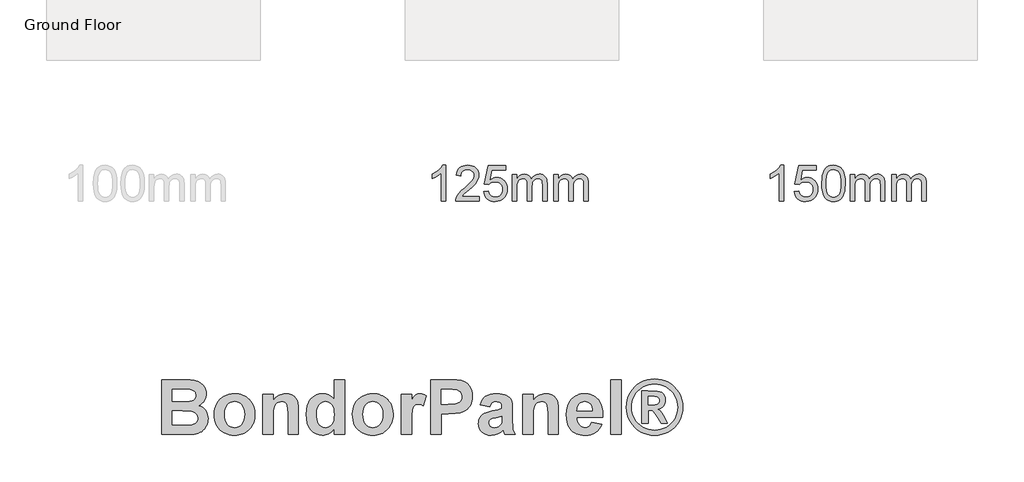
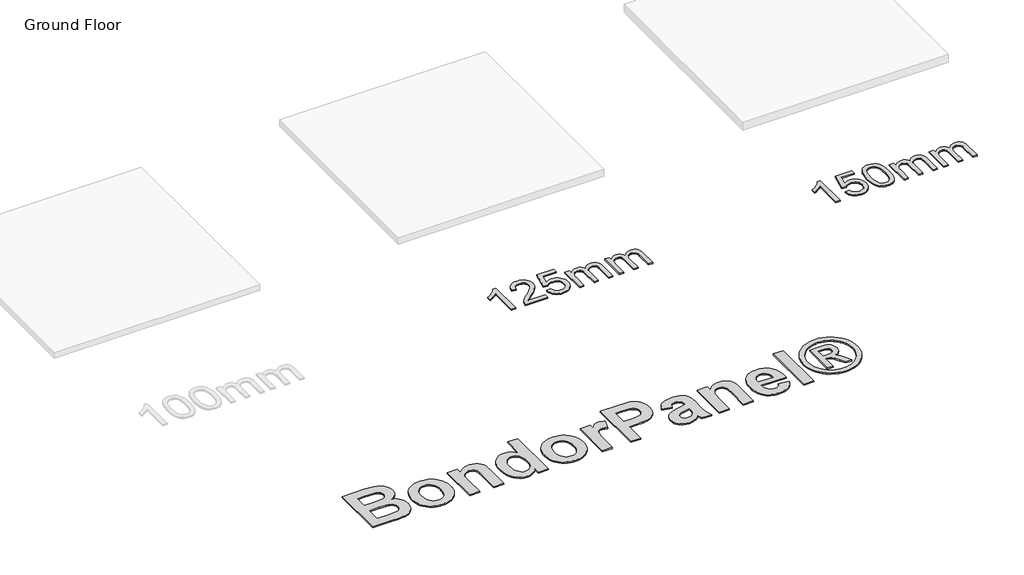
# One storey, part 2 of 3: 3 proxies.
"""IFC4 building model written with IfcOpenShell, lengths in millimetres."""

import ifcopenshell
import ifcopenshell.guid

model = None  # the IFC model being written
_history = None  # IfcOwnerHistory: only IFC2X3 demands one
_inside = {}  # id of a spatial element -> (the spatial element, [elements in it])
_under = {}  # id of a project, library or spatial element -> (it, [spatial elements below it])
_declared = {}  # id of a project -> (the project, [libraries it declares])
_typed = {}  # id of a type object -> (the type object, [elements of that type])
_made_of = {}  # id of a material, layer set ... -> (it, [elements and type objects made of it])


def new_model(schema):
    """Start an empty IFC model of exactly this schema.

    Asked for "IFC4X3", IfcOpenShell would pick the latest addendum, in which some entities
    have other attributes; the version numbers below select the first issue.
    IFC2X3 requires an IfcOwnerHistory on every rooted entity: one is made here for all.
    """
    global model, _history
    if schema == "IFC4X3":
        model = ifcopenshell.file(schema_version=(4, 3, 0, 0))
    else:
        model = ifcopenshell.file(schema=schema)
    _inside.clear()
    _under.clear()
    _declared.clear()
    _typed.clear()
    _made_of.clear()
    _history = None
    if model.schema == "IFC2X3":
        org = make("IfcOrganization", Name="unknown")
        user = make(
            "IfcPersonAndOrganization",
            ThePerson=make("IfcPerson", FamilyName="unknown"),
            TheOrganization=org,
        )
        app = make(
            "IfcApplication",
            ApplicationDeveloper=org,
            Version="unknown",
            ApplicationFullName="unknown",
            ApplicationIdentifier="unknown",
        )
        _history = make(
            "IfcOwnerHistory",
            OwningUser=user,
            OwningApplication=app,
            ChangeAction="ADDED",
            CreationDate=0,
        )
    return model


def make(cls, **values):
    """One entity of the class cls with the attributes given. An attribute that is None is left unset."""
    return model.create_entity(
        cls, **{name: value for name, value in values.items() if value is not None}
    )


def rooted(cls, **values):
    """An entity with a GlobalId (a new one), such as an element, a storey or a relation."""
    return make(cls, GlobalId=ifcopenshell.guid.new(), OwnerHistory=_history, **values)


def si_unit(unit_type, name, prefix=None):
    """IfcSIUnit, for example si_unit("LENGTHUNIT", "METRE", prefix="MILLI")."""
    return make("IfcSIUnit", UnitType=unit_type, Prefix=prefix, Name=name)


def assignment(units):
    """IfcUnitAssignment: the units of a project."""
    return None if units is None else make("IfcUnitAssignment", Units=units)


def point(xyz):
    """IfcCartesianPoint."""
    return None if xyz is None else make("IfcCartesianPoint", Coordinates=xyz)


def direction(xyz):
    """IfcDirection."""
    return None if xyz is None else make("IfcDirection", DirectionRatios=xyz)


def frame(location, z_axis=None, x_axis=None):
    """IfcAxis2Placement3D, a coordinate frame: its origin and axes. An axis left out is left unset."""
    return make(
        "IfcAxis2Placement3D",
        Location=point(location),
        Axis=direction(z_axis),
        RefDirection=direction(x_axis),
    )


def origin():
    """The frame at (0, 0, 0) with its axes left unset."""
    return frame((0.0, 0.0, 0.0))


def origin_with_axes():
    """The frame at (0, 0, 0) with the z axis (0, 0, 1) and the x axis (1, 0, 0) written out."""
    return frame((0.0, 0.0, 0.0), z_axis=(0.0, 0.0, 1.0), x_axis=(1.0, 0.0, 0.0))


def place(relative_to, where):
    """IfcLocalPlacement: puts the frame where relative to a parent placement (None: the world)."""
    return make(
        "IfcLocalPlacement", PlacementRelTo=relative_to, RelativePlacement=where
    )


def context(
    kind, dimensions, precision=None, world=None, true_north=None, identifier=None
):
    """IfcGeometricRepresentationContext, for example the 3D "Model" context."""
    return make(
        "IfcGeometricRepresentationContext",
        ContextIdentifier=identifier,
        ContextType=kind,
        CoordinateSpaceDimension=dimensions,
        Precision=precision,
        WorldCoordinateSystem=world,
        TrueNorth=true_north,
    )


def project(units=None, contexts=None):
    """IfcProject with its units and contexts."""
    return rooted(
        "IfcProject",
        Name="project",
        RepresentationContexts=contexts,
        UnitsInContext=assignment(units),
    )


def spatial(cls, under=None, at=None, **own):
    """A site, building, storey or space (cls), placed at a placement, below another one or the project."""
    s = rooted(cls, ObjectPlacement=at, **own)
    if under is not None:
        _under.setdefault(under.id(), (under, []))[1].append(s)
    return s


def polyline(points):
    """IfcPolyline through the points."""
    return make("IfcPolyline", Points=[point(p) for p in points])


def outline(outer, holes=None, kind="AREA"):
    """IfcArbitraryClosedProfileDef: a profile drawn as a closed curve; with holes, ...WithVoids."""
    if holes is None:
        return make("IfcArbitraryClosedProfileDef", ProfileType=kind, OuterCurve=outer)
    return make(
        "IfcArbitraryProfileDefWithVoids",
        ProfileType=kind,
        OuterCurve=outer,
        InnerCurves=holes,
    )


def extrude(swept, where, along, depth):
    """IfcExtrudedAreaSolid: the profile swept, set in the frame where, extruded along a direction by depth."""
    return make(
        "IfcExtrudedAreaSolid",
        SweptArea=swept,
        Position=where,
        ExtrudedDirection=direction(along),
        Depth=depth,
    )


def shape(context_of_items, identifier, shape_type, items):
    """IfcShapeRepresentation: the items that make up one representation, for example the "Body"."""
    return make(
        "IfcShapeRepresentation",
        ContextOfItems=context_of_items,
        RepresentationIdentifier=identifier,
        RepresentationType=shape_type,
        Items=items,
    )


def made_of(thing, what):
    """Note that an element or type object is made of a material, layer set ...; save() writes the relation."""
    if what is not None:
        _made_of.setdefault(what.id(), (what, []))[1].append(thing)
    return thing


def element(
    cls,
    number,
    at=None,
    inside=None,
    cuts=None,
    type_object=None,
    material=None,
    context=None,
    identifier="Body",
    shape_type=None,
    held_by="IfcProductDefinitionShape",
    body=None,
    shapes=None,
    **own,
):
    """One element of the class cls, such as IfcWall. Its Tag is "e" and its number.

    at: its placement. inside: the storey or other place that contains it. cuts: it is an
    opening in that element (IfcRelVoidsElement). A single representation is given by context,
    identifier, shape_type and body (its items); several are given by shapes. held_by: the class
    of the entity that holds the representations. save() writes the other relations.
    """
    e = rooted(cls, Tag="e%d" % number, ObjectPlacement=at, **own)
    if body is not None:
        shapes = [shape(context, identifier, shape_type, body)]
    if shapes is not None:
        e.Representation = make(held_by, Representations=shapes)
    if inside is not None:
        _inside.setdefault(inside.id(), (inside, []))[1].append(e)
    if cuts is not None:
        rooted(
            "IfcRelVoidsElement", RelatingBuildingElement=cuts, RelatedOpeningElement=e
        )
    if type_object is not None:
        _typed.setdefault(type_object.id(), (type_object, []))[1].append(e)
    return made_of(e, material)


def aggregate(whole, parts):
    """IfcRelAggregates: a whole, such as a stair, and the parts it consists of."""
    return rooted("IfcRelAggregates", RelatingObject=whole, RelatedObjects=parts)


def save(model, path):
    """Write the relations noted so far, then the file.

    IfcRelAggregates (storeys below a building ...), IfcRelContainedInSpatialStructure (elements
    in a storey), IfcRelDefinesByType, IfcRelAssociatesMaterial and IfcRelDeclares: one each for
    every whole, place, type object, material and project.
    """
    for whole, parts in _under.values():
        aggregate(whole, parts)
    for where, things in _inside.values():
        rooted(
            "IfcRelContainedInSpatialStructure",
            RelatedElements=things,
            RelatingStructure=where,
        )
    for kind, things in _typed.values():
        rooted("IfcRelDefinesByType", RelatedObjects=things, RelatingType=kind)
    for what, things in _made_of.values():
        rooted("IfcRelAssociatesMaterial", RelatedObjects=things, RelatingMaterial=what)
    for by, libraries in _declared.values():
        rooted("IfcRelDeclares", RelatingContext=by, RelatedDefinitions=libraries)
    model.write(path)


model = new_model("IFC4")

# Units and contexts
model_context = context("Model", 3, world=origin())
ifc_project = project(units=[si_unit("LENGTHUNIT", "METRE", prefix="MILLI")], contexts=[model_context])

# Site, building, storey
site = spatial("IfcSite", under=ifc_project)
building = spatial("IfcBuilding", under=site)
storey = spatial("IfcBuildingStorey", under=building, Name="Ground Floor", Elevation=0.0)

# Proxies
placement = place(None, origin())
element("IfcBuildingElementProxy", 1, Name="600mm Arial", ObjectType="600mm Arial", at=placement, inside=storey, context=model_context, shape_type="SweptSolid", body=[
    extrude(outline(polyline([(9514.4488498, -2485.58737), (9439.1066172, -2485.58737), (9439.1066172, -2015.8756386), (9407.6527066, -2041.3146785), (9367.7375101, -2066.7169303), (9325.8357509, -2088.9186087), (9288.422152, -2104.7559286), (9288.422152, -2033.5339743), (9347.5959709, -2001.3442998), (9398.8603269, -1963.0477841), (9439.2721641, -1922.3232472), (9465.8884265, -1882.8495091), (9514.4488498, -1882.8495091), (9514.4488498, -2485.58737)])), origin_with_axes(), (0.0, 0.0, 1.0), 20.0),
    extrude(outline(polyline([(10079.5155944, -2410.2451374), (10079.5155944, -2485.58737), (9683.9688732, -2485.58737), (9685.6243422, -2459.0630782), (9692.0622771, -2433.6424323), (9710.6403178, -2393.0466541), (9737.8267973, -2353.6648865), (9777.1533826, -2312.443709), (9832.1517409, -2266.3297009), (9913.4536618, -2194.1144652), (9962.2348144, -2140.8083641), (9976.4626505, -2119.02975), (9986.6253906, -2097.5454415), (9992.7230347, -2076.3554386), (9994.7555827, -2055.4597412), (9992.8379978, -2035.8010471), (9987.0852431, -2017.7334426), (9977.4973186, -2001.2569278), (9964.0742243, -1986.3715026), (9947.5609213, -1974.0428572), (9928.7023705, -1965.2366819), (9907.498572, -1959.9529768), (9883.9495258, -1958.1917417), (9859.1404837, -1959.9115901), (9836.9526009, -1965.071135), (9817.3858773, -1973.6703767), (9800.4403129, -1985.709315), (9786.73211, -2000.7832797), (9776.8774711, -2018.4876007), (9770.876396, -2038.822278), (9768.7288849, -2061.7873116), (9693.3866523, -2052.3695325), (9699.8659739, -2013.4752085), (9711.6519933, -1979.4921092), (9728.7447105, -1950.4202346), (9751.1441255, -1926.2595845), (9778.3352035, -1907.2676765), (9809.8029096, -1893.702028), (9845.547244, -1885.5626388), (9885.5682066, -1882.8495091), (9925.9478541, -1885.8661415), (9961.8853265, -1894.9160386), (9993.3806238, -1909.9992004), (10020.433746, -1931.1156269), (10042.1617763, -1956.7018196), (10057.681798, -1985.1942802), (10066.993811, -2016.5930085), (10070.0978153, -2050.8980045), (10066.7500892, -2086.9320459), (10056.7069107, -2122.340688), (10038.883028, -2158.3563353), (10012.1931893, -2196.2113926), (9969.6476366, -2241.4056957), (9904.2566119, -2299.4390805), (9817.5836138, -2371.9118335), (9783.5913175, -2410.2451374), (10079.5155944, -2410.2451374)])), origin_with_axes(), (0.0, 0.0, 1.0), 20.0),
    extrude(outline(polyline([(10154.857827, -2325.4851257), (10230.2000596, -2316.0673466), (10235.8286542, -2340.2877775), (10244.0324227, -2361.2984379), (10254.8113651, -2379.099328), (10268.1654815, -2393.6904476), (10284.0671808, -2405.0534027), (10302.4888717, -2413.1697993), (10323.4305543, -2418.0396372), (10346.8922285, -2419.6629165), (10375.5870241, -2417.4050407), (10400.8973054, -2410.6314135), (10422.8230723, -2399.3420348), (10441.3643249, -2383.5369045), (10456.1071958, -2363.9977721), (10466.6378179, -2341.5063866), (10472.9561912, -2316.0627481), (10475.0623156, -2287.6668566), (10473.0895484, -2260.8298651), (10467.1712468, -2236.9727177), (10457.3074108, -2216.0954144), (10443.4980404, -2198.1979554), (10425.6971504, -2183.8413605), (10403.8587555, -2173.5866499), (10377.9828556, -2167.4338235), (10348.0694509, -2165.3828814), (10311.5203747, -2168.6570312), (10281.9242682, -2178.4794804), (10258.28785, -2193.525854), (10239.6178387, -2212.4717768), (10164.2756061, -2203.0539977), (10230.2000596, -1892.2672882), (10522.151211, -1892.2672882), (10522.151211, -1967.6095208), (10291.121318, -1967.6095208), (10258.8948553, -2133.597877), (10285.4835265, -2114.5415897), (10312.7159912, -2100.9299559), (10340.5922493, -2092.7629756), (10369.112301, -2090.0406488), (10405.8039315, -2093.4159661), (10439.5065208, -2103.541918), (10470.2200689, -2120.4185045), (10497.9445757, -2144.0457257), (10520.8958137, -2172.9796446), (10537.2895551, -2205.7763245), (10547.1258, -2242.4357653), (10550.4045482, -2282.9579671), (10547.4522952, -2321.9902468), (10538.5955362, -2358.3001997), (10523.8342711, -2391.8878258), (10503.1685001, -2422.7531252), (10471.8617423, -2454.3633857), (10435.3310601, -2476.9421431), (10393.5764537, -2490.4893976), (10346.5979229, -2495.0051491), (10307.7173945, -2492.1034798), (10272.5984596, -2483.3984721), (10241.241118, -2468.890126), (10213.6453699, -2448.5784413), (10190.6849348, -2423.4750936), (10173.2335327, -2394.5917585), (10161.2911634, -2361.9284359), (10154.857827, -2325.4851257)])), origin_with_axes(), (0.0, 0.0, 1.0), 20.0),
    extrude(outline(polyline([(10635.1645599, -2485.58737), (10635.1645599, -2042.9517534), (10710.5067925, -2042.9517534), (10710.5067925, -2115.7923885), (10733.1683234, -2082.333521), (10762.3045775, -2056.1219288), (10796.9222732, -2039.180963), (10836.0281293, -2033.5339743), (10877.9298885, -2039.2913276), (10895.7629683, -2046.4880191), (10911.5175147, -2056.5633872), (10936.6070668, -2084.2097192), (10953.0146038, -2121.0898892), (10980.4769947, -2082.7841764), (11011.8021466, -2055.422953), (11046.9900594, -2039.006219), (11086.0407332, -2033.5339743), (11116.2024583, -2035.8102442), (11142.6761664, -2042.6390537), (11165.4618575, -2054.0204029), (11184.5595315, -2069.9542919), (11199.6564889, -2090.6246615), (11210.4400299, -2116.2154528), (11216.9101545, -2146.7266657), (11219.0668627, -2182.1583004), (11219.0668627, -2485.58737), (11143.7246301, -2485.58737), (11143.7246301, -2214.531916), (11141.9771906, -2176.9527702), (11136.7348722, -2151.6240948), (11126.9124229, -2134.2784587), (11111.4245909, -2120.6484308), (11091.5037808, -2111.8192629), (11068.3823974, -2108.8762069), (11047.0314462, -2110.7616022), (11027.5658901, -2116.4177879), (11009.9857292, -2125.844764), (10994.2909636, -2139.0425306), (10981.3829041, -2156.3973637), (10972.1628616, -2178.2955394), (10966.6308361, -2204.7370578), (10964.7868276, -2235.7219189), (10964.7868276, -2485.58737), (10889.444595, -2485.58737), (10889.444595, -2206.1442065), (10885.0851934, -2163.5434714), (10879.6359413, -2146.8232348), (10872.0069884, -2133.1564186), (10861.8948321, -2122.533826), (10848.9959696, -2114.9462599), (10833.3104011, -2110.3937202), (10814.8381264, -2108.8762069), (10785.812237, -2112.9229089), (10759.0672159, -2125.0630147), (10736.9942962, -2145.0022189), (10721.9847108, -2172.4462157), (10713.3762721, -2210.5220022), (10710.5067925, -2262.3565753), (10710.5067925, -2485.58737), (10635.1645599, -2485.58737)])), origin_with_axes(), (0.0, 0.0, 1.0), 20.0),
    extrude(outline(polyline([(11332.0802116, -2485.58737), (11332.0802116, -2042.9517534), (11407.4224442, -2042.9517534), (11407.4224442, -2115.7923885), (11430.0839751, -2082.333521), (11459.2202291, -2056.1219288), (11493.8379249, -2039.180963), (11532.943781, -2033.5339743), (11574.8455402, -2039.2913276), (11592.6786199, -2046.4880191), (11608.4331664, -2056.5633872), (11633.5227184, -2084.2097192), (11649.9302554, -2121.0898892), (11677.3926464, -2082.7841764), (11708.7177983, -2055.422953), (11743.9057111, -2039.006219), (11782.9563849, -2033.5339743), (11813.11811, -2035.8102442), (11839.591818, -2042.6390537), (11862.3775091, -2054.0204029), (11881.4751832, -2069.9542919), (11896.5721406, -2090.6246615), (11907.3556815, -2116.2154528), (11913.8258061, -2146.7266657), (11915.9825143, -2182.1583004), (11915.9825143, -2485.58737), (11840.6402817, -2485.58737), (11840.6402817, -2214.531916), (11838.8928422, -2176.9527702), (11833.6505238, -2151.6240948), (11823.8280745, -2134.2784587), (11808.3402425, -2120.6484308), (11788.4194325, -2111.8192629), (11765.2980491, -2108.8762069), (11743.9470978, -2110.7616022), (11724.4815417, -2116.4177879), (11706.9013809, -2125.844764), (11691.2066153, -2139.0425306), (11678.2985558, -2156.3973637), (11669.0785133, -2178.2955394), (11663.5464878, -2204.7370578), (11661.7024793, -2235.7219189), (11661.7024793, -2485.58737), (11586.3602467, -2485.58737), (11586.3602467, -2206.1442065), (11582.000845, -2163.5434714), (11576.551593, -2146.8232348), (11568.9226401, -2133.1564186), (11558.8104837, -2122.533826), (11545.9116213, -2114.9462599), (11530.2260527, -2110.3937202), (11511.753778, -2108.8762069), (11482.7278886, -2112.9229089), (11455.9828676, -2125.0630147), (11433.9099479, -2145.0022189), (11418.9003625, -2172.4462157), (11410.2919238, -2210.5220022), (11407.4224442, -2262.3565753), (11407.4224442, -2485.58737), (11332.0802116, -2485.58737)])), origin_with_axes(), (0.0, 0.0, 1.0), 20.0),
])
element("IfcBuildingElementProxy", 2, Name="600mm Arial", ObjectType="600mm Arial", at=placement, inside=storey, context=model_context, shape_type="SweptSolid", body=[
    extrude(outline(polyline([(15201.7887855, -2485.58737), (15126.4465529, -2485.58737), (15126.4465529, -2015.8756386), (15094.9926423, -2041.3146785), (15055.0774458, -2066.7169303), (15013.1756866, -2088.9186087), (14975.7620877, -2104.7559286), (14975.7620877, -2033.5339743), (15034.9359066, -2001.3442998), (15086.2002626, -1963.0477841), (15126.6120998, -1922.3232472), (15153.2283621, -1882.8495091), (15201.7887855, -1882.8495091), (15201.7887855, -2485.58737)])), origin_with_axes(), (0.0, 0.0, 1.0), 20.0),
    extrude(outline(polyline([(15380.726588, -2325.4851257), (15456.0688206, -2316.0673466), (15461.6974151, -2340.2877775), (15469.9011836, -2361.2984379), (15480.680126, -2379.099328), (15494.0342425, -2393.6904476), (15509.9359417, -2405.0534027), (15528.3576326, -2413.1697993), (15549.2993152, -2418.0396372), (15572.7609894, -2419.6629165), (15601.4557851, -2417.4050407), (15626.7660663, -2410.6314135), (15648.6918332, -2399.3420348), (15667.2330858, -2383.5369045), (15681.9759568, -2363.9977721), (15692.5065789, -2341.5063866), (15698.8249521, -2316.0627481), (15700.9310766, -2287.6668566), (15698.9583094, -2260.8298651), (15693.0400078, -2236.9727177), (15683.1761718, -2216.0954144), (15669.3668014, -2198.1979554), (15651.5659113, -2183.8413605), (15629.7275164, -2173.5866499), (15603.8516166, -2167.4338235), (15573.9382118, -2165.3828814), (15537.3891356, -2168.6570312), (15507.7930291, -2178.4794804), (15484.1566109, -2193.525854), (15465.4865996, -2212.4717768), (15390.144367, -2203.0539977), (15456.0688206, -1892.2672882), (15748.0199719, -1892.2672882), (15748.0199719, -1967.6095208), (15516.990079, -1967.6095208), (15484.7636162, -2133.597877), (15511.3522874, -2114.5415897), (15538.5847521, -2100.9299559), (15566.4610103, -2092.7629756), (15594.981062, -2090.0406488), (15631.6726924, -2093.4159661), (15665.3752817, -2103.541918), (15696.0888298, -2120.4185045), (15723.8133367, -2144.0457257), (15746.7645746, -2172.9796446), (15763.158316, -2205.7763245), (15772.9945609, -2242.4357653), (15776.2733092, -2282.9579671), (15773.3210562, -2321.9902468), (15764.4642971, -2358.3001997), (15749.7030321, -2391.8878258), (15729.037261, -2422.7531252), (15697.7305032, -2454.3633857), (15661.1998211, -2476.9421431), (15619.4452146, -2490.4893976), (15572.4666838, -2495.0051491), (15533.5861555, -2492.1034798), (15498.4672205, -2483.3984721), (15467.109879, -2468.890126), (15439.5141308, -2448.5784413), (15416.5536958, -2423.4750936), (15399.1022936, -2394.5917585), (15387.1599243, -2361.9284359), (15380.726588, -2325.4851257)])), origin_with_axes(), (0.0, 0.0, 1.0), 20.0),
    extrude(outline(polyline([(15842.1977627, -2189.0744819), (15847.7343867, -2092.5974287), (15854.6551668, -2051.6843523), (15864.3442588, -2015.6549094), (15876.7602762, -1984.2147944), (15891.8618321, -1957.0697016), (15909.6489265, -1934.2196312), (15930.1215596, -1915.6645831), (15953.348709, -1901.3079882), (15979.3993528, -1891.0532776), (16008.2734909, -1884.9004512), (16039.9711233, -1882.8495091), (16086.3978311, -1887.7055514), (16127.9684966, -1902.2736785), (16162.7333451, -1925.983673), (16188.7426022, -1958.2653181), (16208.3875007, -1998.8427022), (16224.0592737, -2047.4399138), (16234.3231814, -2109.1521184), (16237.7444839, -2189.0744819), (16232.2630422, -2284.9997121), (16225.41124, -2325.7748328), (16215.818717, -2361.7582904), (16203.4992687, -2393.212201), (16188.4666907, -2420.3986805), (16170.7209829, -2443.3177288), (16150.2621455, -2461.9693459), (16127.0074049, -2476.4225098), (16100.8739876, -2486.7461983), (16071.8618938, -2492.9404114), (16039.9711233, -2495.0051491), (15998.4740343, -2491.4182996), (15961.6858347, -2480.6577513), (15929.6065248, -2462.723504), (15902.2361043, -2437.6155578), (15875.9693299, -2392.2281167), (15857.2073481, -2335.675457), (15845.9501591, -2267.9575787), (15842.1977627, -2189.0744819)]), holes=[polyline([(15917.5399953, -2188.9273291), (15919.7472873, -2254.4241198), (15926.3691632, -2307.4405138), (15937.4056231, -2347.9765112), (15952.8566669, -2376.0321118), (15971.5450722, -2395.1205889), (15992.2936167, -2408.7552153), (16015.1023004, -2416.9359912), (16039.9711233, -2419.6629165), (16064.8399462, -2416.9267941), (16087.6486299, -2408.7184271), (16108.3971744, -2395.0378154), (16127.0855798, -2375.884959), (16142.5366236, -2347.7833731), (16153.5730834, -2307.2565728), (16160.1949593, -2254.3045582), (16162.4022513, -2188.9273291), (16160.2685357, -2125.1641823), (16153.867389, -2073.0812888), (16143.1988112, -2032.6786487), (16128.2628022, -2003.9562619), (16109.8870965, -1983.9342843), (16088.8994287, -1969.6328718), (16065.2997987, -1961.0520242), (16039.0882065, -1958.1917417), (16014.3481424, -1960.7117334), (15991.9257347, -1968.2717084), (15971.8209837, -1980.8716667), (15954.0338892, -1998.5116084), (15938.0678107, -2029.781578), (15926.6634688, -2071.9408546), (15919.8208637, -2124.9894383), (15917.5399953, -2188.9273291)])]), origin_with_axes(), (0.0, 0.0, 1.0), 20.0),
    extrude(outline(polyline([(16322.5044956, -2485.58737), (16322.5044956, -2042.9517534), (16397.8467282, -2042.9517534), (16397.8467282, -2115.7923885), (16420.5082591, -2082.333521), (16449.6445131, -2056.1219288), (16484.2622089, -2039.180963), (16523.368065, -2033.5339743), (16565.2698242, -2039.2913276), (16583.1029039, -2046.4880191), (16598.8574504, -2056.5633872), (16623.9470025, -2084.2097192), (16640.3545394, -2121.0898892), (16667.8169304, -2082.7841764), (16699.1420823, -2055.422953), (16734.3299951, -2039.006219), (16773.3806689, -2033.5339743), (16803.542394, -2035.8102442), (16830.0161021, -2042.6390537), (16852.8017931, -2054.0204029), (16871.8994672, -2069.9542919), (16886.9964246, -2090.6246615), (16897.7799656, -2116.2154528), (16904.2500902, -2146.7266657), (16906.4067984, -2182.1583004), (16906.4067984, -2485.58737), (16831.0645657, -2485.58737), (16831.0645657, -2214.531916), (16829.3171263, -2176.9527702), (16824.0748078, -2151.6240948), (16814.2523586, -2134.2784587), (16798.7645266, -2120.6484308), (16778.8437165, -2111.8192629), (16755.7223331, -2108.8762069), (16734.3713818, -2110.7616022), (16714.9058258, -2116.4177879), (16697.3256649, -2125.844764), (16681.6308993, -2139.0425306), (16668.7228398, -2156.3973637), (16659.5027973, -2178.2955394), (16653.9707718, -2204.7370578), (16652.1267633, -2235.7219189), (16652.1267633, -2485.58737), (16576.7845307, -2485.58737), (16576.7845307, -2206.1442065), (16572.425129, -2163.5434714), (16566.975877, -2146.8232348), (16559.3469241, -2133.1564186), (16549.2347678, -2122.533826), (16536.3359053, -2114.9462599), (16520.6503367, -2110.3937202), (16502.1780621, -2108.8762069), (16473.1521726, -2112.9229089), (16446.4071516, -2125.0630147), (16424.3342319, -2145.0022189), (16409.3246465, -2172.4462157), (16400.7162078, -2210.5220022), (16397.8467282, -2262.3565753), (16397.8467282, -2485.58737), (16322.5044956, -2485.58737)])), origin_with_axes(), (0.0, 0.0, 1.0), 20.0),
    extrude(outline(polyline([(17019.4201473, -2485.58737), (17019.4201473, -2042.9517534), (17094.7623799, -2042.9517534), (17094.7623799, -2115.7923885), (17117.4239108, -2082.333521), (17146.5601648, -2056.1219288), (17181.1778606, -2039.180963), (17220.2837166, -2033.5339743), (17262.1854759, -2039.2913276), (17280.0185556, -2046.4880191), (17295.7731021, -2056.5633872), (17320.8626541, -2084.2097192), (17337.2701911, -2121.0898892), (17364.732582, -2082.7841764), (17396.0577339, -2055.422953), (17431.2456468, -2039.006219), (17470.2963206, -2033.5339743), (17500.4580456, -2035.8102442), (17526.9317537, -2042.6390537), (17549.7174448, -2054.0204029), (17568.8151189, -2069.9542919), (17583.9120762, -2090.6246615), (17594.6956172, -2116.2154528), (17601.1657418, -2146.7266657), (17603.32245, -2182.1583004), (17603.32245, -2485.58737), (17527.9802174, -2485.58737), (17527.9802174, -2214.531916), (17526.2327779, -2176.9527702), (17520.9904595, -2151.6240948), (17511.1680102, -2134.2784587), (17495.6801782, -2120.6484308), (17475.7593682, -2111.8192629), (17452.6379848, -2108.8762069), (17431.2870335, -2110.7616022), (17411.8214774, -2116.4177879), (17394.2413166, -2125.844764), (17378.546551, -2139.0425306), (17365.6384915, -2156.3973637), (17356.418449, -2178.2955394), (17350.8864235, -2204.7370578), (17349.042415, -2235.7219189), (17349.042415, -2485.58737), (17273.7001823, -2485.58737), (17273.7001823, -2206.1442065), (17269.3407807, -2163.5434714), (17263.8915286, -2146.8232348), (17256.2625758, -2133.1564186), (17246.1504194, -2122.533826), (17233.251557, -2114.9462599), (17217.5659884, -2110.3937202), (17199.0937137, -2108.8762069), (17170.0678243, -2112.9229089), (17143.3228033, -2125.0630147), (17121.2498835, -2145.0022189), (17106.2402981, -2172.4462157), (17097.6318594, -2210.5220022), (17094.7623799, -2262.3565753), (17094.7623799, -2485.58737), (17019.4201473, -2485.58737)])), origin_with_axes(), (0.0, 0.0, 1.0), 20.0),
])
element("IfcBuildingElementProxy", 3, Name="900mm Arial", ObjectType="900mm Arial", at=placement, inside=storey, context=model_context, shape_type="SweptSolid", body=[
    extrude(outline(polyline([(4738.3193538, -5497.7851027), (5116.7543888, -5497.7851027), (5214.7644897, -5500.0717193), (5284.2490494, -5506.9315688), (5336.5554024, -5521.0800086), (5383.0308833, -5545.2323957), (5422.9609244, -5579.1886511), (5455.630958, -5622.7486959), (5468.3359711, -5647.6656704), (5477.4109805, -5674.0546542), (5482.8559861, -5701.9156474), (5484.6709879, -5731.2486501), (5482.5058479, -5763.0612025), (5476.0104278, -5793.5589504), (5465.1847277, -5822.7418938), (5450.0287476, -5850.6100327), (5431.1570155, -5876.1200984), (5409.1840599, -5898.2288219), (5384.1098805, -5916.9362034), (5355.9344775, -5932.2422427), (5391.8057743, -5946.6193441), (5423.2753342, -5965.2838515), (5450.3431573, -5988.2357649), (5473.0092436, -6015.4750843), (5490.9163093, -6046.1586198), (5503.7070705, -6079.4431816), (5511.3815272, -6115.3287697), (5513.9396795, -6153.8153841), (5512.1032406, -6184.9205146), (5506.5939239, -6215.582613), (5497.4117294, -6245.8016796), (5484.5566571, -6275.5777142), (5468.5217587, -6303.645932), (5449.8000859, -6328.7415484), (5428.3916387, -6350.8645633), (5404.296417, -6370.0149767), (5377.3786531, -6385.985564), (5347.5025791, -6398.5691006), (5314.6681949, -6407.7655864), (5278.8755006, -6413.5750215), (5199.1869146, -6417.6337658), (5053.4151111, -6419.7488861), (4738.3193538, -6419.7488861), (4738.3193538, -5497.7851027)]), holes=[polyline([(4913.931503, -6024.6215504), (4913.931503, -6258.7710827), (5099.6047649, -6258.7710827), (5188.3254861, -6257.3991128), (5237.2590798, -6253.283203), (5277.9036885, -6241.0212219), (5295.0961865, -6231.0101289), (5310.202147, -6218.412301), (5322.5070022, -6203.342069), (5331.2961844, -6185.9137636), (5336.5696938, -6166.127385), (5338.3275302, -6143.9829331), (5332.896816, -6107.6257303), (5316.6046732, -6077.2137305), (5290.0799215, -6053.490084), (5253.9513804, -6037.1979413), (5227.4837941, -6031.6957703), (5189.0114711, -6027.7656481), (5076.0526147, -6024.6215504), (4913.931503, -6024.6215504)]), polyline([(4913.931503, -5658.7629062), (4913.931503, -5863.6437469), (5047.9272314, -5863.6437469), (5196.5573056, -5860.6711455), (5243.3471963, -5849.9812132), (5262.5619208, -5840.7347076), (5278.9898314, -5828.8871757), (5292.1450221, -5814.6958619), (5301.5415869, -5798.4180105), (5307.1795258, -5780.0536216), (5309.0588387, -5759.602695), (5307.4367701, -5740.0878521), (5302.5705643, -5722.4737592), (5294.4602213, -5706.7604162), (5283.1057411, -5692.9478233), (5268.5642892, -5681.3503901), (5250.8930308, -5672.2825264), (5230.0919661, -5665.7442323), (5206.161095, -5661.7355077), (5031.4635924, -5658.7629062), (4913.931503, -5658.7629062)])]), origin_with_axes(), (0.0, 0.0, 1.0), 20.0),
    extrude(outline(polyline([(5616.3800998, -6073.5551441), (5619.0883113, -6029.6592524), (5627.2129456, -5986.4636371), (5640.7540029, -5943.9682981), (5659.711483, -5902.1732354), (5683.6280627, -5863.179278), (5712.0464188, -5829.0872547), (5744.9665511, -5799.8971656), (5782.3884596, -5775.6090107), (5823.218856, -5756.5014713), (5866.3644516, -5742.8532289), (5911.8252464, -5734.6642835), (5959.6012404, -5731.934635), (5996.5890492, -5733.481674), (6031.8654683, -5738.122791), (6065.430498, -5745.857986), (6097.284138, -5756.6872589), (6127.4263885, -5770.6106099), (6155.8572495, -5787.6280388), (6182.5767209, -5807.7395457), (6207.5848027, -5830.9451306), (6230.2276656, -5856.5159345), (6249.8514801, -5883.7230983), (6266.4562462, -5912.5666221), (6280.0419639, -5943.0465058), (6290.6086332, -5975.1627495), (6298.1562542, -6008.9153531), (6304.1943509, -6081.3296402), (6302.668749, -6118.6425773), (6298.0919431, -6154.3227272), (6290.4639333, -6188.37009), (6279.7847195, -6220.7846656), (6266.0543019, -6251.5664542), (6249.2726803, -6280.7154557), (6229.4398547, -6308.23167), (6206.5558253, -6334.1150972), (6181.3601694, -6357.6154413), (6154.5924647, -6377.9824061), (6126.2527111, -6395.2159918), (6096.3409087, -6409.3161982), (6064.8570574, -6420.2830255), (6031.8011572, -6428.1164735), (5997.1732082, -6432.8165423), (5960.9732103, -6434.3832319), (5915.6624747, -6431.7750599), (5871.4235906, -6423.950544), (5828.256558, -6410.9096841), (5786.1613769, -6392.6524803), (5747.088817, -6369.3504288), (5712.9896481, -6341.1750257), (5683.8638701, -6308.1262713), (5659.711483, -6270.2041653), (5640.7540029, -6227.6445152), (5627.2129456, -6180.6831283), (5619.0883113, -6129.3200046), (5616.3800998, -6073.5551441)]), holes=[polyline([(5791.9922491, -6083.1589335), (5795.0291616, -6133.2143984), (5804.1398994, -6177.0531246), (5819.3244622, -6214.6751121), (5840.5828502, -6246.080361), (5866.3001405, -6270.8401305), (5894.86141, -6288.5256802), (5926.2666589, -6299.13701), (5960.515887, -6302.67412), (5994.7508238, -6299.13701), (6026.1131986, -6288.5256802), (6054.6030114, -6270.8401305), (6080.2202622, -6246.080361), (6101.3786107, -6214.589364), (6116.4917168, -6176.7101321), (6125.5595805, -6132.4426653), (6128.5822017, -6081.7869636), (6125.5595805, -6032.3317355), (6116.4917168, -5988.9217499), (6101.3786107, -5951.5570067), (6080.2202622, -5920.237506), (6054.6030114, -5895.4777364), (6026.1131986, -5877.7921867), (5994.7508238, -5867.1808569), (5960.515887, -5863.6437469), (5926.2666589, -5867.1808569), (5894.86141, -5877.7921867), (5866.3001405, -5895.4777364), (5840.5828502, -5920.237506), (5819.3244622, -5951.6427548), (5804.1398994, -5989.2647424), (5795.0291616, -6033.1034686), (5791.9922491, -6083.1589335)])]), origin_with_axes(), (0.0, 0.0, 1.0), 20.0),
    extrude(outline(polyline([(7035.9116393, -6419.7488861), (6860.2994901, -6419.7488861), (6860.2994901, -6073.7838057), (6857.5555503, -5983.2337913), (6849.3237308, -5931.5562578), (6834.8608813, -5902.9163858), (6813.4238513, -5881.4793558), (6786.0416184, -5868.1026492), (6753.74316, -5863.6437469), (6731.9131179, -5865.2372328), (6711.2406753, -5870.0176905), (6691.7258324, -5877.98512), (6673.3685891, -5889.1395212), (6656.9906982, -5902.9306771), (6643.4139126, -5918.8083706), (6632.6382322, -5936.7726017), (6624.6636571, -5956.8233704), (6614.8026233, -6016.8756369), (6611.5156121, -6112.6562867), (6611.5156121, -6419.7488861), (6435.9034629, -6419.7488861), (6435.9034629, -5746.5689808), (6611.5156121, -5746.5689808), (6611.5156121, -5843.5215215), (6633.0562543, -5817.368345), (6655.9474294, -5794.7022587), (6680.1891375, -5775.5232626), (6705.7813784, -5759.8313567), (6732.7241522, -5747.6265409), (6761.0174588, -5738.9088154), (6790.6612984, -5733.6781801), (6821.6556708, -5731.934635), (6875.0481667, -5737.2510185), (6923.6387679, -5753.2001687), (6964.2262112, -5777.3811385), (6993.6092336, -5807.3929804), (7013.7600417, -5842.5211268), (7026.6508424, -5882.05101), (7033.5964401, -5932.8424796), (7035.9116393, -6001.7553851), (7035.9116393, -6419.7488861)])), origin_with_axes(), (0.0, 0.0, 1.0), 20.0),
    extrude(outline(polyline([(7811.5319651, -6419.7488861), (7635.9198158, -6419.7488861), (7635.9198158, -6322.7963454), (7615.3759955, -6349.2282033), (7593.0743387, -6372.0443489), (7569.0148454, -6391.244782), (7543.1975157, -6406.8295028), (7516.451248, -6418.8842593), (7489.6049409, -6427.4947996), (7462.6585942, -6432.6611238), (7435.6122081, -6434.3832319), (7382.3697715, -6428.5523598), (7333.0860396, -6411.0597433), (7287.7610127, -6381.9053826), (7246.3946906, -6341.0892776), (7227.9320486, -6316.6117623), (7211.9310921, -6289.8261934), (7187.3142361, -6229.3308949), (7172.5441225, -6159.6033822), (7167.6207513, -6080.6436553), (7172.5369768, -6000.3548325), (7187.2856534, -5930.2986187), (7198.3471608, -5899.1077401), (7211.866781, -5870.4750138), (7227.844514, -5844.4004397), (7246.2803598, -5820.8840179), (7288.2111903, -5781.9686629), (7335.3440735, -5754.1719807), (7387.6790092, -5737.4939715), (7445.2159976, -5731.934635), (7498.4655799, -5737.6940504), (7547.9994104, -5754.9722965), (7593.8174891, -5783.7693734), (7635.9198158, -5824.085281), (7635.9198158, -5497.7851027), (7811.5319651, -5497.7851027), (7811.5319651, -6419.7488861)]), holes=[polyline([(7343.2329005, -6070.3538809), (7345.0621937, -6121.974249), (7350.5500734, -6165.9344517), (7359.6965395, -6202.2344891), (7372.501592, -6230.8743611), (7395.7536238, -6262.2867556), (7423.2073135, -6284.7241803), (7454.862661, -6298.1866351), (7490.7196664, -6302.67412), (7519.8740271, -6299.3085063), (7546.7417713, -6289.2116652), (7571.322899, -6272.3835967), (7593.6174101, -6248.8243008), (7612.1247126, -6218.5766516), (7625.3442144, -6181.683523), (7633.2759155, -6138.1449152), (7635.9198158, -6087.9608282), (7633.3545179, -6032.4603577), (7625.6586242, -5985.3203288), (7612.8321346, -5946.5407417), (7594.8750492, -5916.1215962), (7572.9020935, -5893.1625372), (7548.0279931, -5876.7632093), (7520.252748, -5866.9236125), (7489.5763582, -5863.6437469), (7459.7360125, -5866.8878841), (7432.410945, -5876.6202957), (7407.6011557, -5892.8409817), (7385.3066446, -5915.5499421), (7366.8993815, -5944.6900114), (7353.7513365, -5980.2040244), (7345.8625095, -6022.0919809), (7343.2329005, -6070.3538809)])]), origin_with_axes(), (0.0, 0.0, 1.0), 20.0),
    extrude(outline(polyline([(7943.241077, -6073.5551441), (7945.9492884, -6029.6592524), (7954.0739228, -5986.4636371), (7967.61498, -5943.9682981), (7986.5724601, -5902.1732354), (8010.4890399, -5863.179278), (8038.9073959, -5829.0872547), (8071.8275282, -5799.8971656), (8109.2494368, -5775.6090107), (8150.0798331, -5756.5014713), (8193.2254287, -5742.8532289), (8238.6862235, -5734.6642835), (8286.4622176, -5731.934635), (8323.4500263, -5733.481674), (8358.7264455, -5738.122791), (8392.2914751, -5745.857986), (8424.1451152, -5756.6872589), (8454.2873657, -5770.6106099), (8482.7182266, -5787.6280388), (8509.437698, -5807.7395457), (8534.4457798, -5830.9451306), (8557.0886427, -5856.5159345), (8576.7124572, -5883.7230983), (8593.3172233, -5912.5666221), (8606.902941, -5943.0465058), (8617.4696104, -5975.1627495), (8625.0172313, -6008.9153531), (8631.0553281, -6081.3296402), (8629.5297261, -6118.6425773), (8624.9529202, -6154.3227272), (8617.3249104, -6188.37009), (8606.6456967, -6220.7846656), (8592.915279, -6251.5664542), (8576.1336574, -6280.7154557), (8556.3008319, -6308.23167), (8533.4168024, -6334.1150972), (8508.2211466, -6357.6154413), (8481.4534418, -6377.9824061), (8453.1136883, -6395.2159918), (8423.2018858, -6409.3161982), (8391.7180345, -6420.2830255), (8358.6621344, -6428.1164735), (8324.0341854, -6432.8165423), (8287.8341875, -6434.3832319), (8242.5234519, -6431.7750599), (8198.2845678, -6423.950544), (8155.1175352, -6410.9096841), (8113.022354, -6392.6524803), (8073.9497942, -6369.3504288), (8039.8506252, -6341.1750257), (8010.7248472, -6308.1262713), (7986.5724601, -6270.2041653), (7967.61498, -6227.6445152), (7954.0739228, -6180.6831283), (7945.9492884, -6129.3200046), (7943.241077, -6073.5551441)]), holes=[polyline([(8118.8532262, -6083.1589335), (8121.8901388, -6133.2143984), (8131.0008765, -6177.0531246), (8146.1854394, -6214.6751121), (8167.4438274, -6246.080361), (8193.1611176, -6270.8401305), (8221.7223872, -6288.5256802), (8253.127636, -6299.13701), (8287.3768642, -6302.67412), (8321.611801, -6299.13701), (8352.9741758, -6288.5256802), (8381.4639886, -6270.8401305), (8407.0812393, -6246.080361), (8428.2395879, -6214.589364), (8443.352694, -6176.7101321), (8452.4205576, -6132.4426653), (8455.4431789, -6081.7869636), (8452.4205576, -6032.3317355), (8443.352694, -5988.9217499), (8428.2395879, -5951.5570067), (8407.0812393, -5920.237506), (8381.4639886, -5895.4777364), (8352.9741758, -5877.7921867), (8321.611801, -5867.1808569), (8287.3768642, -5863.6437469), (8253.127636, -5867.1808569), (8221.7223872, -5877.7921867), (8193.1611176, -5895.4777364), (8167.4438274, -5920.237506), (8146.1854394, -5951.6427548), (8131.0008765, -5989.2647424), (8121.8901388, -6033.1034686), (8118.8532262, -6083.1589335)])]), origin_with_axes(), (0.0, 0.0, 1.0), 20.0),
    extrude(outline(polyline([(8938.3765892, -6419.7488861), (8762.76444, -6419.7488861), (8762.76444, -5746.5689808), (8938.3765892, -5746.5689808), (8938.3765892, -5840.3202584), (8975.4769423, -5785.1842174), (8992.5265268, -5766.1695718), (9008.5757166, -5752.8571762), (9041.845987, -5737.1652703), (9079.4608289, -5731.934635), (9107.1145975, -5734.2498343), (9134.2824601, -5741.195432), (9160.9644167, -5752.7714281), (9187.1604673, -5768.9778228), (9135.9402571, -5936.1294908), (9093.6378513, -5914.6924609), (9073.6871221, -5909.3332034), (9054.5367087, -5907.5467842), (9020.7805323, -5912.5487579), (8992.6837317, -5927.5546789), (8980.721869, -5939.5665613), (8970.1033935, -5955.594314), (8952.8966041, -5999.6974303), (8946.5440976, -6032.9105353), (8942.0065929, -6080.4149936), (8938.3765892, -6218.2979702), (8938.3765892, -6419.7488861)])), origin_with_axes(), (0.0, 0.0, 1.0), 20.0),
    extrude(outline(polyline([(9260.3321961, -6419.7488861), (9260.3321961, -5497.7851027), (9557.3636829, -5497.7851027), (9696.9044564, -5501.2150275), (9744.5947023, -5505.5024335), (9777.5648543, -5511.5048019), (9815.4012122, -5524.8314888), (9850.0220155, -5544.2320009), (9881.4272644, -5569.7063382), (9909.6169587, -5601.2545006), (9932.8761362, -5638.347708), (9949.4898344, -5680.4571805), (9959.4580533, -5727.582918), (9962.780793, -5779.7249204), (9960.8300233, -5820.2337613), (9954.9777141, -5857.3841342), (9945.2238655, -5891.1760391), (9931.5684774, -5921.6094759), (9914.9047595, -5948.8202125), (9896.1259212, -5972.9440169), (9875.2319627, -5993.9808889), (9852.2228839, -6011.9308287), (9803.7180309, -6039.2273135), (9754.4700274, -6055.4908735), (9671.8660054, -6065.2661591), (9558.9643144, -6068.5245877), (9435.9443453, -6068.5245877), (9435.9443453, -6419.7488861), (9260.3321961, -6419.7488861)]), holes=[polyline([(9435.9443453, -5658.7629062), (9435.9443453, -5907.5467842), (9545.0159536, -5907.5467842), (9643.2547161, -5904.1168595), (9677.7326059, -5899.8294535), (9702.4495015, -5893.8270851), (9737.8348922, -5876.1915551), (9764.645471, -5850.7243636), (9781.5378506, -5818.9689766), (9787.1686438, -5782.4688603), (9785.1892913, -5759.6169864), (9779.251234, -5738.85165), (9769.3544719, -5720.1728513), (9755.4990049, -5703.5805901), (9738.6280623, -5689.4893158), (9719.6848735, -5678.3134775), (9698.6694385, -5670.0530753), (9675.5817573, -5664.7081092), (9621.9034343, -5660.2492069), (9532.2109011, -5658.7629062), (9435.9443453, -5658.7629062)])]), origin_with_axes(), (0.0, 0.0, 1.0), 20.0),
    extrude(outline(polyline([(10255.4677083, -5951.4498216), (10094.4899049, -5922.18113), (10109.6173023, -5876.8489574), (10129.3893896, -5837.8049802), (10153.8061667, -5805.0491985), (10182.8676336, -5778.5816122), (10218.0457997, -5758.1735597), (10260.8126745, -5743.5963793), (10311.1682578, -5734.8500711), (10369.1125497, -5731.934635), (10421.6618557, -5733.6996172), (10467.0369024, -5738.9945636), (10505.2376898, -5747.8194742), (10536.2642178, -5760.1743491), (10561.6742439, -5775.2374355), (10583.0255257, -5792.1869805), (10600.3180632, -5811.0229841), (10613.5518564, -5831.7454464), (10623.3557247, -5857.9486427), (10630.3584878, -5893.2268483), (10634.5601457, -5937.5800632), (10635.9606983, -5991.0082875), (10635.9606983, -6198.633068), (10638.2758975, -6275.692045), (10645.2214952, -6329.4275333), (10658.5124538, -6373.0447436), (10679.8637356, -6419.7488861), (10504.2515864, -6419.7488861), (10487.7879474, -6363.9554429), (10481.6140828, -6341.7752626), (10436.1675793, -6382.2197924), (10387.6341436, -6411.1740742), (10335.8994446, -6428.5809425), (10280.8491518, -6434.3832319), (10233.4232959, -6430.8604133), (10191.2995321, -6420.2919576), (10154.4778603, -6402.6778646), (10122.9582806, -6378.0181345), (10097.6983137, -6347.9848556), (10079.6554802, -6314.2501162), (10068.8297801, -6276.8139162), (10065.2212134, -6235.6762558), (10066.8289906, -6207.9796131), (10071.6523223, -6181.8264366), (10079.6912086, -6157.2167262), (10090.9456493, -6134.150482), (10105.1012347, -6113.156484), (10121.8435551, -6094.7635123), (10141.1726104, -6078.971567), (10163.0884007, -6065.7806479), (10219.7393251, -6043.5433021), (10296.8554675, -6024.3928887), (10396.7234442, -6001.8125505), (10460.3485491, -5980.7185131), (10460.3485491, -5962.1969192), (10454.8892521, -5916.5789195), (10448.0651309, -5899.5150437), (10438.5113613, -5886.2812506), (10425.1846743, -5876.3773427), (10407.0418013, -5869.3031228), (10384.0827423, -5865.0585909), (10356.3074971, -5863.6437469), (10319.893129, -5868.5028071), (10305.0729956, -5874.5766322), (10292.5108961, -5883.0799874), (10271.8170165, -5909.8905662), (10255.4677083, -5951.4498216)]), holes=[polyline([(10460.3485491, -6112.427625), (10361.3380535, -6136.780091), (10305.3159486, -6150.7570345), (10272.6173323, -6164.5624818), (10258.7118455, -6176.2956829), (10248.779355, -6189.5437674), (10242.8198607, -6204.3067353), (10240.8333626, -6220.5845867), (10242.4268485, -6236.7123789), (10247.2073061, -6251.7111542), (10255.1747356, -6265.5809125), (10266.3291368, -6278.321654), (10279.9416508, -6288.9758579), (10295.2834186, -6296.5860035), (10312.3544401, -6301.1520909), (10331.1547154, -6302.67412), (10352.9490291, -6300.9019922), (10374.2002715, -6295.5856088), (10394.9084424, -6286.7249697), (10415.0735419, -6274.3200751), (10439.6546695, -6250.4249324), (10453.9460228, -6221.727895), (10458.7479175, -6192.1733764), (10460.3485491, -6144.2115947), (10460.3485491, -6112.427625)])]), origin_with_axes(), (0.0, 0.0, 1.0), 20.0),
    extrude(outline(polyline([(11411.581024, -6419.7488861), (11235.9688748, -6419.7488861), (11235.9688748, -6073.7838057), (11233.224935, -5983.2337913), (11224.9931155, -5931.5562578), (11210.5302659, -5902.9163858), (11189.093236, -5881.4793558), (11161.7110031, -5868.1026492), (11129.4125447, -5863.6437469), (11107.5825025, -5865.2372328), (11086.91006, -5870.0176905), (11067.3952171, -5877.98512), (11049.0379738, -5889.1395212), (11032.6600829, -5902.9306771), (11019.0832973, -5918.8083706), (11008.3076169, -5936.7726017), (11000.3330418, -5956.8233704), (10990.472008, -6016.8756369), (10987.1849967, -6112.6562867), (10987.1849967, -6419.7488861), (10811.5728475, -6419.7488861), (10811.5728475, -5746.5689808), (10987.1849967, -5746.5689808), (10987.1849967, -5843.5215215), (11008.725639, -5817.368345), (11031.6168141, -5794.7022587), (11055.8585221, -5775.5232626), (11081.450763, -5759.8313567), (11108.3935368, -5747.6265409), (11136.6868435, -5738.9088154), (11166.3306831, -5733.6781801), (11197.3250555, -5731.934635), (11250.7175514, -5737.2510185), (11299.3081526, -5753.2001687), (11339.8955959, -5777.3811385), (11369.2786183, -5807.3929804), (11389.4294264, -5842.5211268), (11402.3202271, -5882.05101), (11409.2658248, -5932.8424796), (11411.581024, -6001.7553851), (11411.581024, -6419.7488861)])), origin_with_axes(), (0.0, 0.0, 1.0), 20.0),
    extrude(outline(polyline([(11967.6861632, -6214.8680454), (12143.2983124, -6244.1367369), (12124.3193953, -6287.889715), (12100.5385834, -6326.0833567), (12071.9558768, -6358.7176619), (12038.5712755, -6385.7926307), (12000.5419844, -6407.0510187), (11958.0252084, -6422.2355816), (11911.0209474, -6431.3463193), (11859.5292015, -6434.3832319), (11818.3808226, -6432.5932399), (11779.9978205, -6427.2232639), (11744.3801952, -6418.2733039), (11711.5279469, -6405.7433599), (11681.4410753, -6389.6334319), (11654.1195807, -6369.9435199), (11629.5634629, -6346.6736239), (11607.772722, -6319.8237439), (11579.5615906, -6270.961607), (11559.4107824, -6216.0685191), (11547.3202976, -6155.14448), (11543.2901359, -6088.1894898), (11548.6351021, -6009.2440543), (11564.6700005, -5939.330754), (11576.6961742, -5907.7611545), (11591.3948311, -5878.449589), (11608.765971, -5851.3960572), (11628.809594, -5826.6005592), (11674.399011, -5785.1842174), (11699.3159855, -5768.9135117), (11725.6478039, -5755.6011161), (11753.3944663, -5745.2470306), (11782.5559727, -5737.8512553), (11845.1235174, -5731.934635), (11880.8554735, -5733.4530913), (11914.6509512, -5738.0084602), (11946.5099505, -5745.6007416), (11976.4324714, -5756.2299356), (12004.418514, -5769.8960422), (12030.4680782, -5786.5990614), (12054.581164, -5806.3389931), (12076.7577715, -5829.1158374), (12096.5834514, -5855.0296337), (12113.6437544, -5884.1804216), (12127.9386805, -5916.568201), (12139.4682297, -5952.1929719), (12148.2324021, -5991.0547344), (12154.2311977, -6033.1534883), (12157.9326582, -6127.0619708), (11718.9022852, -6127.0619708), (11722.1750051, -6166.3631923), (11730.1638715, -6201.0340154), (11742.8688846, -6231.07444), (11760.2900443, -6256.4844662), (11781.2840423, -6276.6924397), (11804.7075703, -6291.1267065), (11830.5606284, -6299.7872666), (11858.8432166, -6302.67412), (11895.714908, -6297.4720674), (11926.2984041, -6281.8659096), (11939.1749134, -6269.8754642), (11950.365043, -6254.7123383), (11967.6861632, -6214.8680454)]), holes=[polyline([(11982.320509, -6024.6215504), (11979.1907026, -5987.5426343), (11971.6305767, -5955.1941561), (11959.6401313, -5927.5761159), (11943.2193664, -5904.6885136), (11923.583047, -5886.7314282), (11901.9459381, -5873.9049386), (11878.3080397, -5866.2090449), (11852.6693519, -5863.6437469), (11825.4300326, -5866.3448127), (11800.648826, -5874.44801), (11778.3257321, -5887.9533389), (11758.4607511, -5906.8607993), (11742.2829391, -5930.512989), (11730.7926911, -5958.0238441), (11723.9900069, -5989.3933645), (11721.8748866, -6024.6215504), (11982.320509, -6024.6215504)])]), origin_with_axes(), (0.0, 0.0, 1.0), 20.0),
    extrude(outline(polyline([(12289.6417701, -6419.7488861), (12289.6417701, -5497.7851027), (12465.2539193, -5497.7851027), (12465.2539193, -6419.7488861), (12289.6417701, -6419.7488861)])), origin_with_axes(), (0.0, 0.0, 1.0), 20.0),
    extrude(outline(polyline([(13028.6762314, -5483.150757), (13089.2215496, -5486.973694), (13148.5235201, -5498.442505), (13206.5821428, -5517.55719), (13263.3974178, -5544.3177491), (13316.5826891, -5578.2168391), (13363.7513006, -5618.747117), (13404.9032524, -5665.9085828), (13440.0385445, -5719.7012366), (13468.1496364, -5777.4740323), (13488.2289878, -5836.5759238), (13500.2765986, -5897.0069112), (13504.2924689, -5958.7669944), (13500.355201, -6020.1340655), (13488.5433975, -6080.0720012), (13468.8570584, -6138.5808015), (13441.2961836, -6195.6604666), (13406.6896716, -6248.9171946), (13365.8664209, -6295.9571839), (13318.8264316, -6336.7804346), (13265.5697035, -6371.3869466), (13208.4900385, -6398.9478214), (13149.9812381, -6418.6341606), (13090.0433024, -6430.4459641), (13028.6762314, -6434.3832319), (12967.3091604, -6430.4459641), (12907.3712247, -6418.6341606), (12848.8624243, -6398.9478214), (12791.7827593, -6371.3869466), (12738.5260312, -6336.7804346), (12691.4860419, -6295.9571839), (12650.6627912, -6248.9171946), (12616.0562792, -6195.6604666), (12588.4954044, -6138.5808015), (12568.8090653, -6080.0720012), (12556.9972618, -6020.1340655), (12553.0599939, -5958.7669944), (12557.0758642, -5897.0069112), (12569.123475, -5836.5759238), (12589.2028264, -5777.4740323), (12617.3139183, -5719.7012366), (12652.4492104, -5665.9085828), (12693.6011622, -5618.747117), (12740.7697737, -5578.2168391), (12793.955045, -5544.3177491), (12850.77032, -5517.55719), (12908.8289427, -5498.442505), (12968.1309132, -5486.973694), (13028.6762314, -5483.150757)]), holes=[polyline([(13028.4475697, -5570.9568316), (12979.1209639, -5574.0652009), (12930.8376268, -5583.3903089), (12883.5975585, -5598.9321556), (12837.400759, -5620.690741), (12794.1479782, -5648.2659072), (12755.7399663, -5681.2574963), (12722.1767231, -5719.6655082), (12693.4582486, -5763.4899431), (12670.4491699, -5810.5799522), (12654.0141136, -5858.7846868), (12644.1530798, -5908.104147), (12640.8660685, -5958.5383328), (12644.0744774, -6008.5937977), (12653.6997038, -6057.4630803), (12669.7417479, -6105.1461805), (12692.2006096, -6151.6430984), (12720.411741, -6195.031647), (12753.7105941, -6233.3896392), (12792.097169, -6266.7170751), (12835.5714658, -6295.0139546), (12882.1398404, -6317.5728558), (12929.8086493, -6333.6863566), (12978.5778924, -6343.3544571), (13028.4475697, -6346.5771573), (13078.495889, -6343.3544571), (13127.3437345, -6333.6863566), (13174.9911064, -6317.5728558), (13221.4380046, -6295.0139546), (13264.7836791, -6266.7170751), (13303.12738, -6233.3896392), (13336.4691072, -6195.031647), (13364.8088608, -6151.6430984), (13387.4177817, -6105.1461805), (13403.5670109, -6057.4630803), (13413.2565484, -6008.5937977), (13416.4863943, -5958.5383328), (13413.199383, -5908.104147), (13403.3383492, -5858.7846868), (13386.9032929, -5810.5799522), (13363.8942141, -5763.4899431), (13335.1543027, -5719.6655082), (13301.5267484, -5681.2574963), (13263.0115513, -5648.2659072), (13219.6087113, -5620.690741), (13173.276144, -5598.9321556), (13125.9717646, -5583.3903089), (13077.6955732, -5574.0652009), (13028.4475697, -5570.9568316)])]), origin_with_axes(), (0.0, 0.0, 1.0), 20.0),
    extrude(outline(polyline([(12816.4782178, -6229.5023911), (12816.4782178, -5688.0315977), (12915.4887133, -5688.0315977), (13071.2072988, -5689.4035676), (13114.9102571, -5697.0923157), (13147.6946216, -5711.0120938), (13172.7616553, -5732.5348719), (13193.3126213, -5763.0326198), (13207.0323204, -5799.9043113), (13211.6055535, -5840.54892), (13209.4832875, -5868.7600514), (13203.1164896, -5894.8560625), (13192.5051598, -5918.8369533), (13177.6492981, -5940.7027239), (13158.9490623, -5959.5387275), (13136.8046104, -5974.4303176), (13111.2159423, -5985.3774943), (13082.1830581, -5992.3802574), (13102.4481971, -6002.155543), (13117.5112834, -6012.7311445), (13151.6962005, -6054.3475652), (13188.9680499, -6120.2021212), (13240.874245, -6229.5023911), (13138.4338247, -6229.5023911), (13087.8995994, -6142.8396248), (13042.939002, -6071.4971892), (13010.49763, -6032.6247082), (12996.5278322, -6022.7208004), (12980.8001979, -6015.6465805), (12944.0714199, -6009.9872046), (12918.9186381, -6009.9872046), (12918.9186381, -6229.5023911), (12816.4782178, -6229.5023911)]), holes=[polyline([(12918.9186381, -5922.18113), (12958.9344273, -5922.18113), (13028.0474119, -5920.3804195), (13064.8047725, -5914.978288), (13083.2120355, -5905.0315061), (13097.2747272, -5889.5968445), (13106.1925316, -5870.1891868), (13109.1651331, -5848.3234162), (13106.2496971, -5827.1436306), (13097.5033888, -5808.4219578), (13083.3835318, -5793.4160369), (13064.3474492, -5783.3835069), (13027.2470961, -5777.724131), (12958.9344273, -5775.8376723), (12918.9186381, -5775.8376723), (12918.9186381, -5922.18113)])]), origin_with_axes(), (0.0, 0.0, 1.0), 20.0),
])

save(model, "model.ifc")
